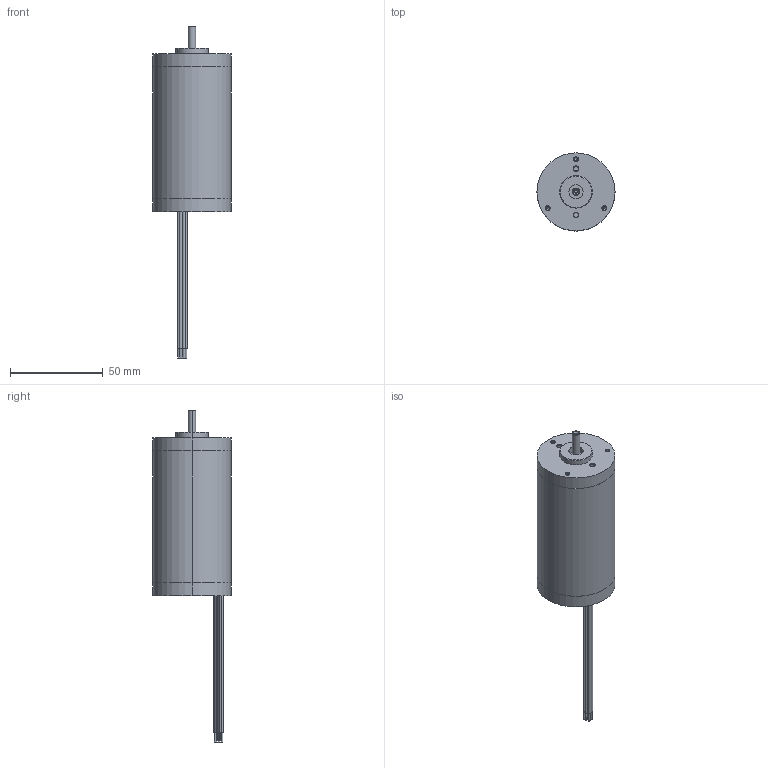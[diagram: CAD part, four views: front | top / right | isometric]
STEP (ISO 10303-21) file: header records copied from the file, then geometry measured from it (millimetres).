
FILE_DESCRIPTION (( 'STEP AP214' ), '1' );
FILE_NAME ('BLWR173S.STEP', '2010-06-25T16:29:28', ( 'Tim Raines' ), ( 'Anaheim Automation' ), 'SwSTEP 2.0', 'SolidWorks 2010', '' );
FILE_SCHEMA (( 'AUTOMOTIVE_DESIGN' ));
Length unit declared in the file: inch
Products named in the file (1): BLWR173S
Bounding box: 42.04 x 42.04 x 178.72 mm (x, y, z)
Volume: 119272 mm3; surface area: 17640.4 mm2
Topology: 1 solids, 1 shells, 187 faces, 426 edges, 271 vertices
Faces by surface type: plane 83, cylinder 74, cone 24, torus 6
Entity records: 7773 total; most frequent: CARTESIAN_POINT 1011, DIRECTION 946, ORIENTED_EDGE 840, EDGE_CURVE 420, AXIS2_PLACEMENT_3D 376, VERTEX_POINT 271, EDGE_LOOP 223, LINE 194
